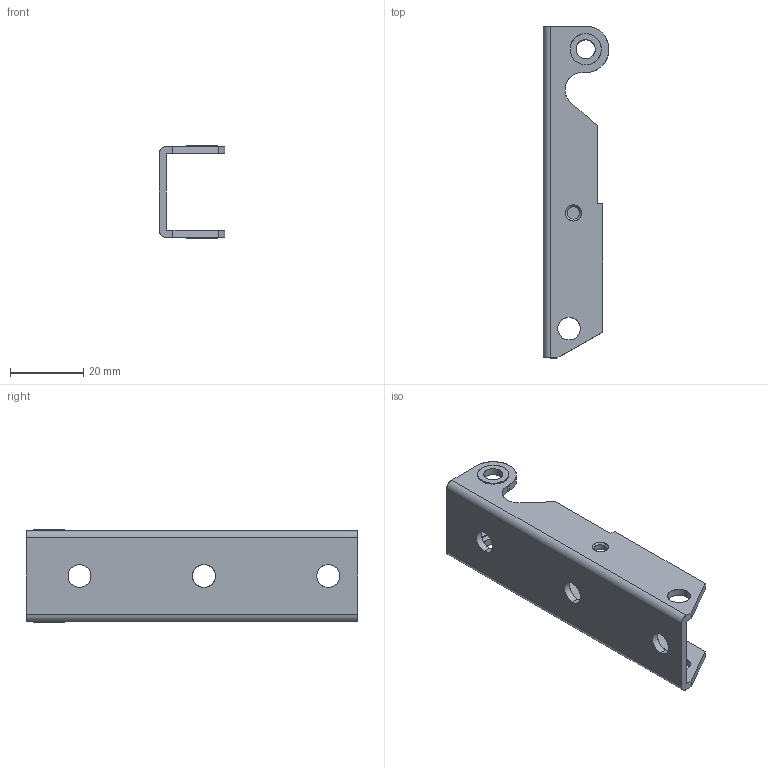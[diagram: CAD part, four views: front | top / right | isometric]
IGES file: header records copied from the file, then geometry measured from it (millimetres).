
Start section: SolidWorks IGES FILE using analytic representation for surfaces
Global section: file name: C:\WINNT\Profiles\cbrechard\Bureau\GE 35\33.020.10.IGS; native system: SolidWorks 2001Plus by SolidWorks Corporation; preprocessor: Version 5.3; author: CBRECHARD; date: 050124.173211; units: millimetre
Bounding box: 18 x 90.7 x 25.4 mm (x, y, z)
Surface area: 9303.4 mm2 (no closed solid volume)
Topology: 0 solids, 0 shells, 58 faces, 1156 edges, 1156 vertices
Faces by surface type: revolution 34, bspline 24
